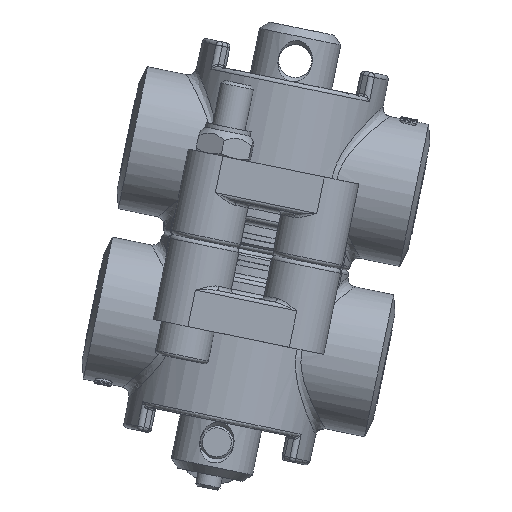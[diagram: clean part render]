
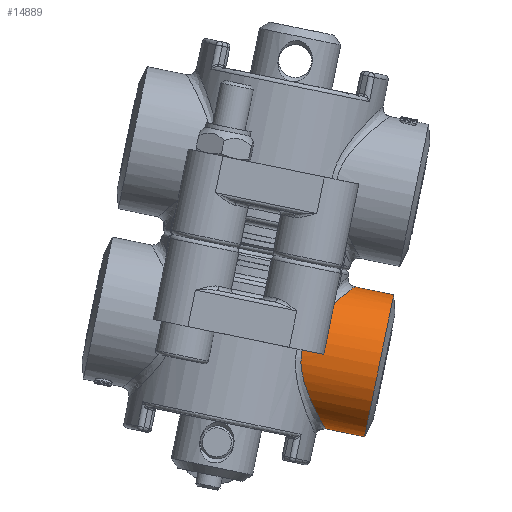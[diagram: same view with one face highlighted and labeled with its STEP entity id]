
A CAD part, front view. The second image highlights one B-rep face of the part: STEP entity #14889.
In plain terms, the highlighted cylindrical face has radius 17.5 mm (diameter 35 mm), a full revolution.
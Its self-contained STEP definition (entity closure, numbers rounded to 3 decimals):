
#11072=CARTESIAN_POINT('',(50.927,91.004,15.866));
#11073=VERTEX_POINT('',#11072);
#11081=CARTESIAN_POINT('',(46.619,119.04,11.455));
#11082=VERTEX_POINT('',#11081);
#11083=CARTESIAN_POINT('',(50.927,91.004,15.866));
#11084=CARTESIAN_POINT('',(51.907,92.095,16.742));
#11085=CARTESIAN_POINT('',(53.736,94.578,18.263));
#11086=CARTESIAN_POINT('',(55.591,99.145,19.706));
#11087=CARTESIAN_POINT('',(56.058,104.202,20.061));
#11088=CARTESIAN_POINT('',(54.988,109.122,19.249));
#11089=CARTESIAN_POINT('',(52.706,113.379,17.436));
#11090=CARTESIAN_POINT('',(49.742,116.745,14.869));
#11091=CARTESIAN_POINT('',(47.607,118.392,12.674));
#11092=CARTESIAN_POINT('',(46.619,119.04,11.455));
#11093=B_SPLINE_CURVE_WITH_KNOTS('',3,(#11083,#11084,#11085,#11086,#11087,#11088,#11089,#11090,#11091,#11092),.UNSPECIFIED.,.F.,.U.,(4,1,1,1,1,1,1,4),(-16.77,-16.212,-15.655,-15.098,-14.54,-13.983,-13.426,-12.868),.UNSPECIFIED.);
#11094=EDGE_CURVE('',#11073,#11082,#11093,.T.);
#11129=CARTESIAN_POINT('',(48.401,85.677,3.551));
#11130=VERTEX_POINT('',#11129);
#11137=CARTESIAN_POINT('',(48.394,103.177,3.551));
#11138=DIRECTION('',(0.98,0.,-0.201));
#11139=DIRECTION('',(0.,-1.,0.));
#11140=AXIS2_PLACEMENT_3D('',#11137,#11138,#11139);
#11141=CIRCLE('',#11140,17.5);
#11142=EDGE_CURVE('',#11073,#11130,#11141,.T.);
#14402=CARTESIAN_POINT('',(43.155,85.675,4.627));
#14403=VERTEX_POINT('',#14402);
#14414=CARTESIAN_POINT('',(48.401,85.677,3.551));
#14415=DIRECTION('',(-0.98,0.,0.201));
#14416=VECTOR('',#14415,5.356);
#14417=LINE('',#14414,#14416);
#14418=EDGE_CURVE('',#11130,#14403,#14417,.T.);
#14777=CARTESIAN_POINT('',(43.648,119.04,-3.016));
#14778=VERTEX_POINT('',#14777);
#14828=CARTESIAN_POINT('',(46.619,119.04,11.455));
#14829=CARTESIAN_POINT('',(47.005,119.625,10.094));
#14830=CARTESIAN_POINT('',(47.446,120.535,7.204));
#14831=CARTESIAN_POINT('',(46.764,120.886,1.942));
#14832=CARTESIAN_POINT('',(44.971,119.909,-1.384));
#14833=CARTESIAN_POINT('',(43.648,119.04,-3.016));
#14834=B_SPLINE_CURVE_WITH_KNOTS('',3,(#14828,#14829,#14830,#14831,#14832,#14833),.UNSPECIFIED.,.F.,.U.,(4,1,1,4),(-4.576,-4.078,-3.58,-2.834),.UNSPECIFIED.);
#14835=EDGE_CURVE('',#11082,#14778,#14834,.T.);
#14842=CARTESIAN_POINT('',(27.823,103.169,7.774));
#14843=DIRECTION('',(-0.98,0.,0.201));
#14844=DIRECTION('',(0.,-1.,0.));
#14845=AXIS2_PLACEMENT_3D('',#14842,#14843,#14844);
#14846=CYLINDRICAL_SURFACE('',#14845,17.5);
#14847=ORIENTED_EDGE('',*,*,#11094,.F.);
#14848=ORIENTED_EDGE('',*,*,#11142,.T.);
#14849=ORIENTED_EDGE('',*,*,#14418,.T.);
#14850=CARTESIAN_POINT('',(47.254,112.123,-11.569));
#14851=VERTEX_POINT('',#14850);
#14852=CARTESIAN_POINT('',(47.256,112.12,-11.574));
#14853=CARTESIAN_POINT('',(47.524,111.366,-12.088));
#14854=CARTESIAN_POINT('',(48.393,108.541,-13.703));
#14855=CARTESIAN_POINT('',(49.138,102.794,-14.992));
#14856=CARTESIAN_POINT('',(48.022,95.717,-13.046));
#14857=CARTESIAN_POINT('',(45.681,90.296,-8.557));
#14858=CARTESIAN_POINT('',(43.626,87.292,-3.546));
#14859=CARTESIAN_POINT('',(42.78,85.922,1.064));
#14860=CARTESIAN_POINT('',(42.916,85.675,3.463));
#14861=CARTESIAN_POINT('',(43.155,85.675,4.627));
#14862=B_SPLINE_CURVE_WITH_KNOTS('',3,(#14852,#14853,#14854,#14855,#14856,#14857,#14858,#14859,#14860,#14861),.UNSPECIFIED.,.F.,.U.,(4,1,1,1,1,1,1,4),(12.864,13.176,13.97,14.764,15.558,16.352,16.749,17.146),.UNSPECIFIED.);
#14863=EDGE_CURVE('',#14851,#14403,#14862,.T.);
#14864=ORIENTED_EDGE('',*,*,#14863,.F.);
#14865=CARTESIAN_POINT('',(43.648,119.04,-3.016));
#14866=CARTESIAN_POINT('',(44.26,118.114,-5.173));
#14867=CARTESIAN_POINT('',(45.092,116.855,-7.13));
#14868=CARTESIAN_POINT('',(45.889,115.293,-8.823));
#14869=CARTESIAN_POINT('',(46.372,114.344,-9.851));
#14870=CARTESIAN_POINT('',(46.841,113.284,-10.782));
#14871=CARTESIAN_POINT('',(47.256,112.12,-11.574));
#14872=B_SPLINE_CURVE_WITH_KNOTS('',3,(#14865,#14866,#14867,#14868,#14869,#14870,#14871),.UNSPECIFIED.,.F.,.U.,(4,3,4),(24.451,25.245,25.727),.UNSPECIFIED.);
#14873=EDGE_CURVE('',#14778,#14851,#14872,.T.);
#14874=ORIENTED_EDGE('',*,*,#14873,.F.);
#14875=ORIENTED_EDGE('',*,*,#14835,.F.);
#14876=EDGE_LOOP('',(#14847,#14848,#14849,#14864,#14874,#14875));
#14877=FACE_OUTER_BOUND('',#14876,.T.);
#14878=CARTESIAN_POINT('',(61.769,120.682,0.805));
#14879=VERTEX_POINT('',#14878);
#14880=CARTESIAN_POINT('',(61.775,103.182,0.804));
#14881=DIRECTION('',(0.98,0.,-0.201));
#14882=DIRECTION('',(0.,-1.,0.));
#14883=AXIS2_PLACEMENT_3D('',#14880,#14881,#14882);
#14884=CIRCLE('',#14883,17.5);
#14885=EDGE_CURVE('',#14879,#14879,#14884,.T.);
#14886=ORIENTED_EDGE('',*,*,#14885,.F.);
#14887=EDGE_LOOP('',(#14886));
#14888=FACE_BOUND('',#14887,.T.);
#14889=ADVANCED_FACE('',(#14877,#14888),#14846,.T.);
